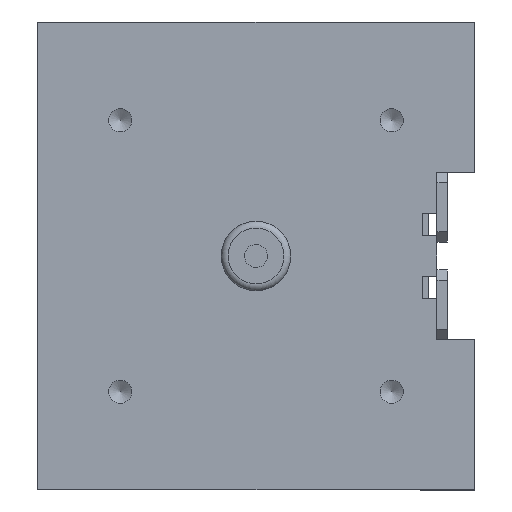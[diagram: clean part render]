
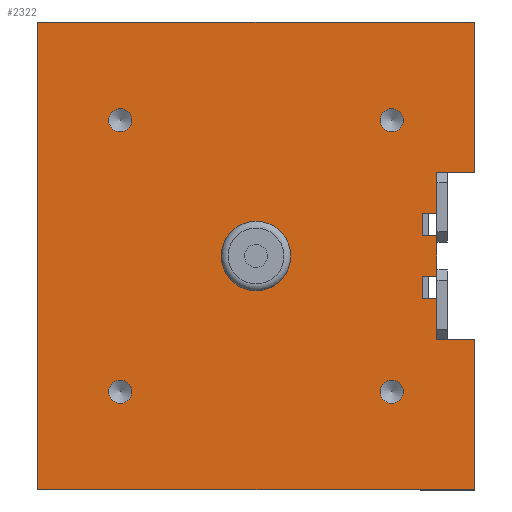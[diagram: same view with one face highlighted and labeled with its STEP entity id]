
A CAD part, front view. The second image highlights one B-rep face of the part: STEP entity #2322.
In plain terms, the highlighted planar face has unit normal (0, -1, 0).
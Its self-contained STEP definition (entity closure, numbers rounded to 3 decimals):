
#1479=CARTESIAN_POINT('',(51.8,0.,-12.2));
#1480=VERTEX_POINT('',#1479);
#1487=CARTESIAN_POINT('',(51.8,0.,-24.));
#1488=VERTEX_POINT('',#1487);
#1489=CARTESIAN_POINT('',(51.8,0.,-12.2));
#1490=DIRECTION('',(0.0,0.0,-1.0));
#1491=VECTOR('',#1490,11.8);
#1492=LINE('',#1489,#1491);
#1493=EDGE_CURVE('',#1480,#1488,#1492,.T.);
#2040=CARTESIAN_POINT('',(51.8,0.,5.8));
#2041=VERTEX_POINT('',#2040);
#2048=CARTESIAN_POINT('',(51.8,0.,-5.8));
#2049=VERTEX_POINT('',#2048);
#2050=CARTESIAN_POINT('',(51.8,0.,5.8));
#2051=DIRECTION('',(0.0,0.0,-1.0));
#2052=VECTOR('',#2051,11.6);
#2053=LINE('',#2050,#2052);
#2054=EDGE_CURVE('',#2041,#2049,#2053,.T.);
#2091=CARTESIAN_POINT('',(62.5,0.,24.));
#2092=VERTEX_POINT('',#2091);
#2099=CARTESIAN_POINT('',(51.8,0.,24.));
#2100=VERTEX_POINT('',#2099);
#2101=CARTESIAN_POINT('',(62.5,0.,24.));
#2102=DIRECTION('',(-1.0,0.0,0.0));
#2103=VECTOR('',#2102,10.7);
#2104=LINE('',#2101,#2103);
#2105=EDGE_CURVE('',#2092,#2100,#2104,.T.);
#2159=CARTESIAN_POINT('',(2.68,0.,0.));
#2160=DIRECTION('',(0.0,1.0,0.0));
#2161=DIRECTION('',(0.0,0.0,1.0));
#2162=AXIS2_PLACEMENT_3D('',#2159,#2160,#2161);
#2163=PLANE('',#2162);
#2164=CARTESIAN_POINT('',(62.5,0.,-67.));
#2165=VERTEX_POINT('',#2164);
#2166=CARTESIAN_POINT('',(-62.5,0.,-67.));
#2167=VERTEX_POINT('',#2166);
#2168=CARTESIAN_POINT('',(62.5,0.,-67.));
#2169=DIRECTION('',(-1.0,0.0,0.0));
#2170=VECTOR('',#2169,125.0);
#2171=LINE('',#2168,#2170);
#2172=EDGE_CURVE('',#2165,#2167,#2171,.T.);
#2173=ORIENTED_EDGE('',*,*,#2172,.F.);
#2174=CARTESIAN_POINT('',(62.5,0.,-24.));
#2175=VERTEX_POINT('',#2174);
#2176=CARTESIAN_POINT('',(62.5,0.,-24.));
#2177=DIRECTION('',(0.0,0.0,-1.0));
#2178=VECTOR('',#2177,43.);
#2179=LINE('',#2176,#2178);
#2180=EDGE_CURVE('',#2175,#2165,#2179,.T.);
#2181=ORIENTED_EDGE('',*,*,#2180,.F.);
#2182=CARTESIAN_POINT('',(51.8,0.,-24.));
#2183=DIRECTION('',(1.0,0.0,0.0));
#2184=VECTOR('',#2183,10.7);
#2185=LINE('',#2182,#2184);
#2186=EDGE_CURVE('',#1488,#2175,#2185,.T.);
#2187=ORIENTED_EDGE('',*,*,#2186,.F.);
#2188=ORIENTED_EDGE('',*,*,#1493,.F.);
#2189=CARTESIAN_POINT('',(47.6,0.,-12.2));
#2190=VERTEX_POINT('',#2189);
#2191=CARTESIAN_POINT('',(47.6,0.,-12.2));
#2192=DIRECTION('',(1.0,0.0,0.0));
#2193=VECTOR('',#2192,4.2);
#2194=LINE('',#2191,#2193);
#2195=EDGE_CURVE('',#2190,#1480,#2194,.T.);
#2196=ORIENTED_EDGE('',*,*,#2195,.F.);
#2197=CARTESIAN_POINT('',(47.6,0.,-5.8));
#2198=VERTEX_POINT('',#2197);
#2199=CARTESIAN_POINT('',(47.6,0.,-5.8));
#2200=DIRECTION('',(0.0,0.0,-1.0));
#2201=VECTOR('',#2200,6.4);
#2202=LINE('',#2199,#2201);
#2203=EDGE_CURVE('',#2198,#2190,#2202,.T.);
#2204=ORIENTED_EDGE('',*,*,#2203,.F.);
#2205=CARTESIAN_POINT('',(51.8,0.,-5.8));
#2206=DIRECTION('',(-1.0,0.0,0.0));
#2207=VECTOR('',#2206,4.2);
#2208=LINE('',#2205,#2207);
#2209=EDGE_CURVE('',#2049,#2198,#2208,.T.);
#2210=ORIENTED_EDGE('',*,*,#2209,.F.);
#2211=ORIENTED_EDGE('',*,*,#2054,.F.);
#2212=CARTESIAN_POINT('',(47.6,0.,5.8));
#2213=VERTEX_POINT('',#2212);
#2214=CARTESIAN_POINT('',(47.6,0.,5.8));
#2215=DIRECTION('',(1.0,0.0,0.0));
#2216=VECTOR('',#2215,4.2);
#2217=LINE('',#2214,#2216);
#2218=EDGE_CURVE('',#2213,#2041,#2217,.T.);
#2219=ORIENTED_EDGE('',*,*,#2218,.F.);
#2220=CARTESIAN_POINT('',(47.6,0.,12.2));
#2221=VERTEX_POINT('',#2220);
#2222=CARTESIAN_POINT('',(47.6,0.,12.2));
#2223=DIRECTION('',(0.0,0.0,-1.0));
#2224=VECTOR('',#2223,6.4);
#2225=LINE('',#2222,#2224);
#2226=EDGE_CURVE('',#2221,#2213,#2225,.T.);
#2227=ORIENTED_EDGE('',*,*,#2226,.F.);
#2228=CARTESIAN_POINT('',(51.8,0.,12.2));
#2229=VERTEX_POINT('',#2228);
#2230=CARTESIAN_POINT('',(51.8,0.,12.2));
#2231=DIRECTION('',(-1.0,0.0,0.0));
#2232=VECTOR('',#2231,4.2);
#2233=LINE('',#2230,#2232);
#2234=EDGE_CURVE('',#2229,#2221,#2233,.T.);
#2235=ORIENTED_EDGE('',*,*,#2234,.F.);
#2236=CARTESIAN_POINT('',(51.8,0.,24.));
#2237=DIRECTION('',(0.0,0.0,-1.0));
#2238=VECTOR('',#2237,11.8);
#2239=LINE('',#2236,#2238);
#2240=EDGE_CURVE('',#2100,#2229,#2239,.T.);
#2241=ORIENTED_EDGE('',*,*,#2240,.F.);
#2242=ORIENTED_EDGE('',*,*,#2105,.F.);
#2243=CARTESIAN_POINT('',(62.5,0.,67.));
#2244=VERTEX_POINT('',#2243);
#2245=CARTESIAN_POINT('',(62.5,0.,67.));
#2246=DIRECTION('',(0.0,0.0,-1.0));
#2247=VECTOR('',#2246,43.);
#2248=LINE('',#2245,#2247);
#2249=EDGE_CURVE('',#2244,#2092,#2248,.T.);
#2250=ORIENTED_EDGE('',*,*,#2249,.F.);
#2251=CARTESIAN_POINT('',(-62.5,0.,67.0));
#2252=VERTEX_POINT('',#2251);
#2253=CARTESIAN_POINT('',(-62.5,0.,67.0));
#2254=DIRECTION('',(1.0,0.0,0.0));
#2255=VECTOR('',#2254,125.0);
#2256=LINE('',#2253,#2255);
#2257=EDGE_CURVE('',#2252,#2244,#2256,.T.);
#2258=ORIENTED_EDGE('',*,*,#2257,.F.);
#2259=CARTESIAN_POINT('',(-62.5,0.,-67.));
#2260=DIRECTION('',(0.0,0.0,1.0));
#2261=VECTOR('',#2260,134.0);
#2262=LINE('',#2259,#2261);
#2263=EDGE_CURVE('',#2167,#2252,#2262,.T.);
#2264=ORIENTED_EDGE('',*,*,#2263,.F.);
#2265=EDGE_LOOP('',(#2173,#2181,#2187,#2188,#2196,#2204,#2210,#2211,#2219,#2227,#2235,#2241,#2242,#2250,#2258,#2264));
#2266=FACE_OUTER_BOUND('',#2265,.T.);
#2267=CARTESIAN_POINT('',(38.891,0.,-42.214));
#2268=VERTEX_POINT('',#2267);
#2269=CARTESIAN_POINT('',(38.891,0.,-38.891));
#2270=DIRECTION('',(0.0,1.0,0.0));
#2271=DIRECTION('',(0.0,0.0,-1.0));
#2272=AXIS2_PLACEMENT_3D('',#2269,#2270,#2271);
#2273=CIRCLE('',#2272,3.324);
#2274=EDGE_CURVE('',#2268,#2268,#2273,.T.);
#2275=ORIENTED_EDGE('',*,*,#2274,.T.);
#2276=EDGE_LOOP('',(#2275));
#2277=FACE_BOUND('',#2276,.T.);
#2278=CARTESIAN_POINT('',(38.891,0.,35.567));
#2279=VERTEX_POINT('',#2278);
#2280=CARTESIAN_POINT('',(38.891,0.,38.891));
#2281=DIRECTION('',(0.0,1.0,0.0));
#2282=DIRECTION('',(0.0,0.0,-1.0));
#2283=AXIS2_PLACEMENT_3D('',#2280,#2281,#2282);
#2284=CIRCLE('',#2283,3.324);
#2285=EDGE_CURVE('',#2279,#2279,#2284,.T.);
#2286=ORIENTED_EDGE('',*,*,#2285,.T.);
#2287=EDGE_LOOP('',(#2286));
#2288=FACE_BOUND('',#2287,.T.);
#2289=CARTESIAN_POINT('',(-38.891,0.,35.567));
#2290=VERTEX_POINT('',#2289);
#2291=CARTESIAN_POINT('',(-38.891,0.,38.891));
#2292=DIRECTION('',(0.0,1.0,0.0));
#2293=DIRECTION('',(0.0,0.0,-1.0));
#2294=AXIS2_PLACEMENT_3D('',#2291,#2292,#2293);
#2295=CIRCLE('',#2294,3.324);
#2296=EDGE_CURVE('',#2290,#2290,#2295,.T.);
#2297=ORIENTED_EDGE('',*,*,#2296,.T.);
#2298=EDGE_LOOP('',(#2297));
#2299=FACE_BOUND('',#2298,.T.);
#2300=CARTESIAN_POINT('',(-38.891,0.,-42.214));
#2301=VERTEX_POINT('',#2300);
#2302=CARTESIAN_POINT('',(-38.891,0.,-38.891));
#2303=DIRECTION('',(0.0,1.0,0.0));
#2304=DIRECTION('',(0.0,0.0,-1.0));
#2305=AXIS2_PLACEMENT_3D('',#2302,#2303,#2304);
#2306=CIRCLE('',#2305,3.324);
#2307=EDGE_CURVE('',#2301,#2301,#2306,.T.);
#2308=ORIENTED_EDGE('',*,*,#2307,.T.);
#2309=EDGE_LOOP('',(#2308));
#2310=FACE_BOUND('',#2309,.T.);
#2311=CARTESIAN_POINT('',(0.,0.,-9.936));
#2312=VERTEX_POINT('',#2311);
#2313=CARTESIAN_POINT('',(0.,0.,0.));
#2314=DIRECTION('',(0.0,-1.0,0.0));
#2315=DIRECTION('',(0.0,0.0,1.0));
#2316=AXIS2_PLACEMENT_3D('',#2313,#2314,#2315);
#2317=CIRCLE('',#2316,9.936);
#2318=EDGE_CURVE('',#2312,#2312,#2317,.T.);
#2319=ORIENTED_EDGE('',*,*,#2318,.F.);
#2320=EDGE_LOOP('',(#2319));
#2321=FACE_BOUND('',#2320,.T.);
#2322=ADVANCED_FACE('',(#2266,#2277,#2288,#2299,#2310,#2321),#2163,.F.);
